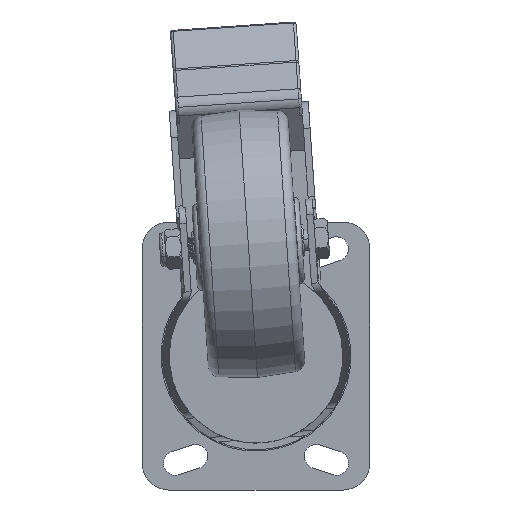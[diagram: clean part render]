
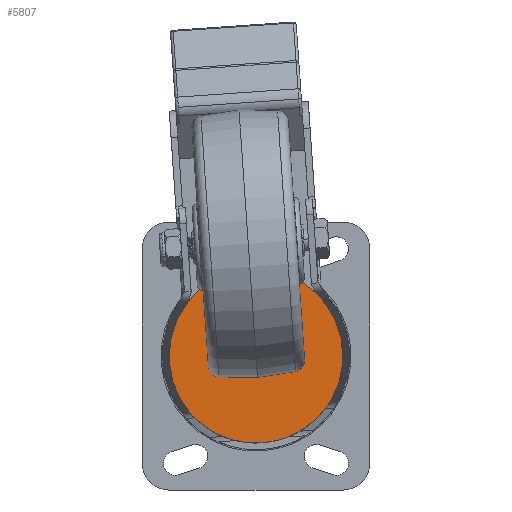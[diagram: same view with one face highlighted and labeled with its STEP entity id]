
A CAD part, front view. The second image highlights one B-rep face of the part: STEP entity #5807.
In plain terms, the highlighted planar face has unit normal (0, -1, 0) as drawn and (0, 1, 0) by its records, which use the part's own axes.
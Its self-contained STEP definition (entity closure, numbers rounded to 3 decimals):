
#89 = DIRECTION ( 'NONE',  ( 0., -1., 0. ) ) ;
#218 = EDGE_CURVE ( 'NONE', #12178, #29476, #7540, .T. ) ;
#482 = CIRCLE ( 'NONE', #7059, 32.5 ) ;
#3737 = PLANE ( 'NONE',  #7163 ) ;
#4950 = CARTESIAN_POINT ( 'NONE',  ( 0., 7., 6. ) ) ;
#5769 = CARTESIAN_POINT ( 'NONE',  ( 0., 7., 32.5 ) ) ;
#5807 = ADVANCED_FACE ( 'NONE', ( #25892, #32575 ), #3737, .F. ) ;
#6105 = DIRECTION ( 'NONE',  ( 0., 0., -1. ) ) ;
#7059 = AXIS2_PLACEMENT_3D ( 'NONE', #12284, #27693, #17321 ) ;
#7126 = CARTESIAN_POINT ( 'NONE',  ( 0., 7., -32.5 ) ) ;
#7163 = AXIS2_PLACEMENT_3D ( 'NONE', #14575, #22219, #27388 ) ;
#7540 = CIRCLE ( 'NONE', #28498, 6. ) ;
#8100 = CARTESIAN_POINT ( 'NONE',  ( 0., 7., -6. ) ) ;
#8320 = CARTESIAN_POINT ( 'NONE',  ( 0., 7., 0. ) ) ;
#8741 = VERTEX_POINT ( 'NONE', #5769 ) ;
#9593 = CIRCLE ( 'NONE', #28935, 6. ) ;
#11415 = DIRECTION ( 'NONE',  ( 0., 0., -1. ) ) ;
#12178 = VERTEX_POINT ( 'NONE', #4950 ) ;
#12284 = CARTESIAN_POINT ( 'NONE',  ( 0., 7., 0. ) ) ;
#14543 = DIRECTION ( 'NONE',  ( 0., 0., -1. ) ) ;
#14575 = CARTESIAN_POINT ( 'NONE',  ( 0., 7., 0. ) ) ;
#15569 = CIRCLE ( 'NONE', #29388, 32.5 ) ;
#16979 = CARTESIAN_POINT ( 'NONE',  ( 0., 7., 0. ) ) ;
#17321 = DIRECTION ( 'NONE',  ( 0., 0., -1. ) ) ;
#19158 = EDGE_CURVE ( 'NONE', #8741, #27497, #482, .T. ) ;
#20320 = EDGE_LOOP ( 'NONE', ( #33151, #30010 ) ) ;
#22219 = DIRECTION ( 'NONE',  ( 0., -1., 0. ) ) ;
#23729 = EDGE_LOOP ( 'NONE', ( #32058, #28243 ) ) ;
#24244 = DIRECTION ( 'NONE',  ( 0., -1., 0. ) ) ;
#24319 = EDGE_CURVE ( 'NONE', #29476, #12178, #9593, .T. ) ;
#25287 = DIRECTION ( 'NONE',  ( 0., -1., 0. ) ) ;
#25892 = FACE_BOUND ( 'NONE', #23729, .T. ) ;
#27388 = DIRECTION ( 'NONE',  ( 0., 0., -1. ) ) ;
#27497 = VERTEX_POINT ( 'NONE', #7126 ) ;
#27693 = DIRECTION ( 'NONE',  ( 0., -1., 0. ) ) ;
#28243 = ORIENTED_EDGE ( 'NONE', *, *, #218, .T. ) ;
#28498 = AXIS2_PLACEMENT_3D ( 'NONE', #32188, #89, #6105 ) ;
#28606 = EDGE_CURVE ( 'NONE', #27497, #8741, #15569, .T. ) ;
#28935 = AXIS2_PLACEMENT_3D ( 'NONE', #8320, #24244, #11415 ) ;
#29388 = AXIS2_PLACEMENT_3D ( 'NONE', #16979, #25287, #14543 ) ;
#29476 = VERTEX_POINT ( 'NONE', #8100 ) ;
#30010 = ORIENTED_EDGE ( 'NONE', *, *, #19158, .F. ) ;
#32058 = ORIENTED_EDGE ( 'NONE', *, *, #24319, .T. ) ;
#32188 = CARTESIAN_POINT ( 'NONE',  ( 0., 7., 0. ) ) ;
#32575 = FACE_OUTER_BOUND ( 'NONE', #20320, .T. ) ;
#33151 = ORIENTED_EDGE ( 'NONE', *, *, #28606, .F. ) ;
